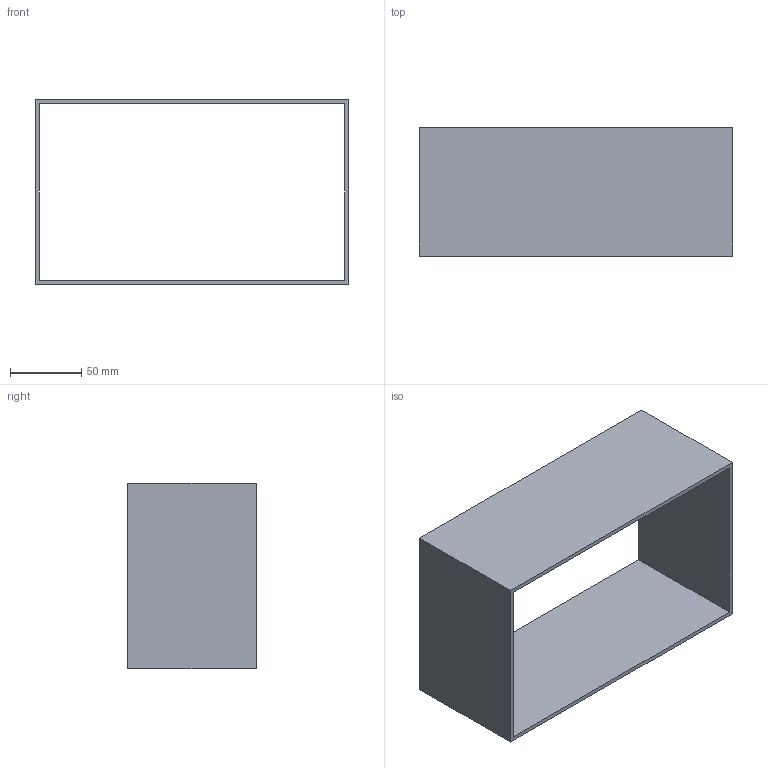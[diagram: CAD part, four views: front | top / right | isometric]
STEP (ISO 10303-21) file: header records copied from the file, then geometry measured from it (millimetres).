
FILE_DESCRIPTION(('Open CASCADE Model'),'2;1');
FILE_NAME('Open CASCADE Shape Model','2026-10-12T17:04:12',('Author'),( 'Open CASCADE'),'Open CASCADE STEP processor 7.7','Open CASCADE 7.7' ,'Unknown');
FILE_SCHEMA(('AUTOMOTIVE_DESIGN { 1 0 10303 214 1 1 1 1 }'));
Length unit declared in the file: millimetre
Products named in the file (1): COMPOUND
Bounding box: 220 x 90 x 130 mm (x, y, z)
Volume: 185760 mm3; surface area: 127968 mm2
Topology: 1 solids, 1 shells, 10 faces, 24 edges, 16 vertices
Faces by surface type: plane 10
Entity records: 606 total; most frequent: CARTESIAN_POINT 107, DIRECTION 86, LINE 64, VECTOR 64, ORIENTED_EDGE 48, PCURVE 48, DEFINITIONAL_REPRESENTATION 48, EDGE_CURVE 24
